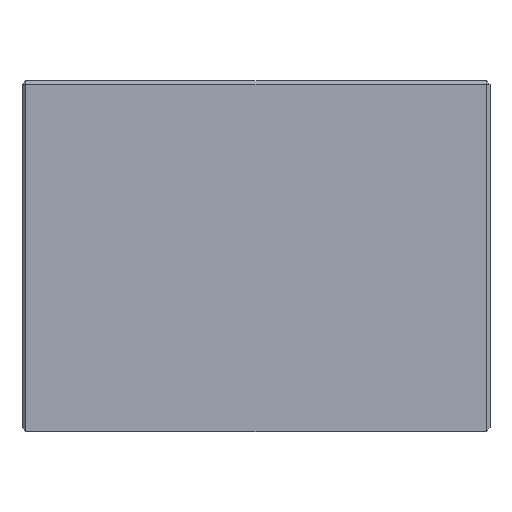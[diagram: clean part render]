
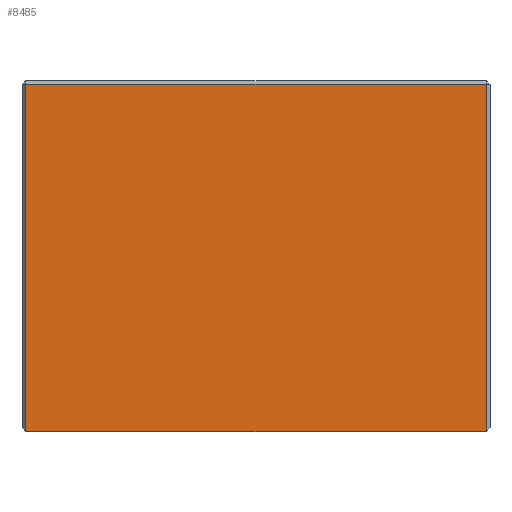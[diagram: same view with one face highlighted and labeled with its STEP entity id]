
A CAD part, front view. The second image highlights one B-rep face of the part: STEP entity #8485.
In plain terms, the highlighted planar face has unit normal (0, -1, 0).
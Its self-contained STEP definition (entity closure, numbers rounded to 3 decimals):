
#525 = DIRECTION ( 'NONE',  ( 0., 0., -1. ) ) ;
#749 = CARTESIAN_POINT ( 'NONE',  ( 0.5, -30., -22.5 ) ) ;
#3103 = FACE_OUTER_BOUND ( 'NONE', #6794, .T. ) ;
#3271 = VECTOR ( 'NONE', #7668, 1000. ) ;
#3309 = LINE ( 'NONE', #7028, #3271 ) ;
#3423 = VERTEX_POINT ( 'NONE', #4763 ) ;
#3466 = VERTEX_POINT ( 'NONE', #4755 ) ;
#3544 = VERTEX_POINT ( 'NONE', #3765 ) ;
#3653 = VECTOR ( 'NONE', #10084, 1000. ) ;
#3745 = LINE ( 'NONE', #10093, #3653 ) ;
#3765 = CARTESIAN_POINT ( 'NONE',  ( 0.5, -30., -22.5 ) ) ;
#3766 = LINE ( 'NONE', #10319, #3894 ) ;
#3880 = LINE ( 'NONE', #749, #3905 ) ;
#3894 = VECTOR ( 'NONE', #10320, 1000. ) ;
#3899 = ORIENTED_EDGE ( 'NONE', *, *, #8101, .T. ) ;
#3905 = VECTOR ( 'NONE', #525, 1000. ) ;
#4755 = CARTESIAN_POINT ( 'NONE',  ( 59.5, -30., -22.5 ) ) ;
#4763 = CARTESIAN_POINT ( 'NONE',  ( 59.5, -30., 22. ) ) ;
#4824 = ORIENTED_EDGE ( 'NONE', *, *, #8377, .F. ) ;
#5754 = DIRECTION ( 'NONE',  ( 0., 0., 1. ) ) ;
#5766 = DIRECTION ( 'NONE',  ( 0., 1., 0. ) ) ;
#5791 = CARTESIAN_POINT ( 'NONE',  ( 60., -30., 22.5 ) ) ;
#5801 = PLANE ( 'NONE',  #8108 ) ;
#6346 = VERTEX_POINT ( 'NONE', #9471 ) ;
#6794 = EDGE_LOOP ( 'NONE', ( #4824, #7467, #3899, #6877 ) ) ;
#6877 = ORIENTED_EDGE ( 'NONE', *, *, #8034, .T. ) ;
#7028 = CARTESIAN_POINT ( 'NONE',  ( 60., -30., -22.5 ) ) ;
#7467 = ORIENTED_EDGE ( 'NONE', *, *, #8164, .T. ) ;
#7668 = DIRECTION ( 'NONE',  ( -1., 0., 0. ) ) ;
#8034 = EDGE_CURVE ( 'NONE', #6346, #3544, #3880, .T. ) ;
#8101 = EDGE_CURVE ( 'NONE', #3423, #6346, #3766, .T. ) ;
#8108 = AXIS2_PLACEMENT_3D ( 'NONE', #5791, #5766, #5754 ) ;
#8164 = EDGE_CURVE ( 'NONE', #3466, #3423, #3745, .T. ) ;
#8377 = EDGE_CURVE ( 'NONE', #3466, #3544, #3309, .T. ) ;
#8485 = ADVANCED_FACE ( 'NONE', ( #3103 ), #5801, .F. ) ;
#9471 = CARTESIAN_POINT ( 'NONE',  ( 0.5, -30., 22. ) ) ;
#10084 = DIRECTION ( 'NONE',  ( 0., 0., 1. ) ) ;
#10093 = CARTESIAN_POINT ( 'NONE',  ( 59.5, -30., 22.5 ) ) ;
#10319 = CARTESIAN_POINT ( 'NONE',  ( 60., -30., 22. ) ) ;
#10320 = DIRECTION ( 'NONE',  ( -1., 0., 0. ) ) ;
